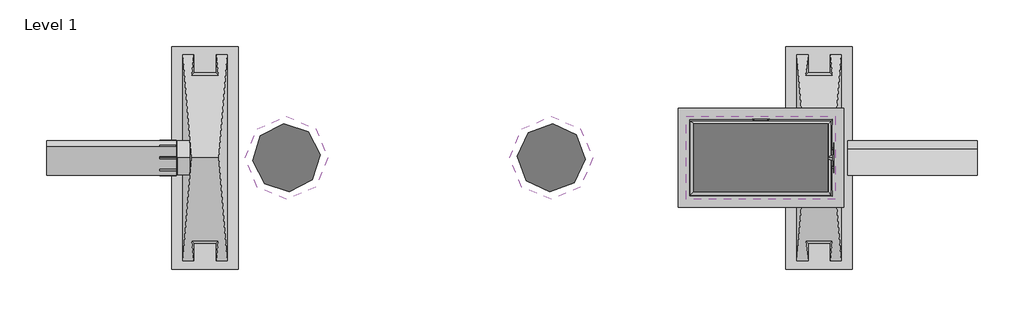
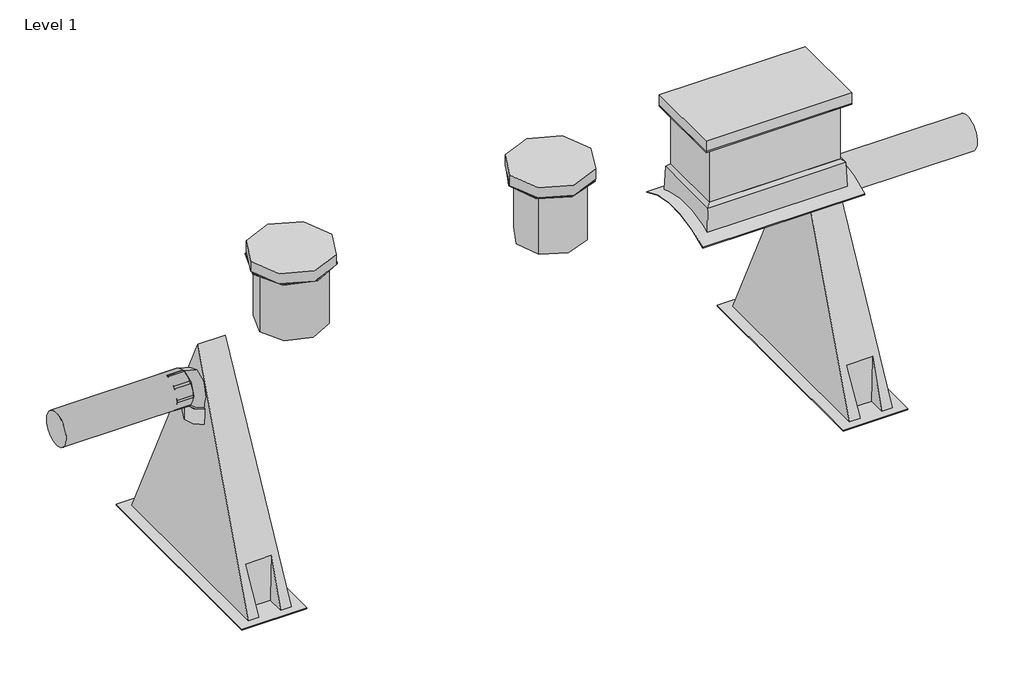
# One storey, incomplete: 12 proxies.
"""IFC4 building model written with IfcOpenShell, lengths in millimetres."""

from ifc_helpers import new_model, si_unit, origin, place, context, project, spatial, transform, mapped, element, save
from components import generic_models_de51d8ae, generic_models_57929f39, generic_models_2a316d6d, generic_models_37cd0800, generic_models_a9b11123, generic_models_b710c0a7, iso_4065_pipe_dn315x2_5xs63_1365_25acaa2f, inletpipeelbow_300d_10dc9381

model = new_model("IFC4")

# Units and contexts
model_context = context("Model", 3, world=origin())
ifc_project = project(units=[si_unit("LENGTHUNIT", "METRE", prefix="MILLI")], contexts=[model_context])

# Site, building, storey
site = spatial("IfcSite", under=ifc_project)
building = spatial("IfcBuilding", under=site)
storey = spatial("IfcBuildingStorey", under=building, Name="Level 1", Elevation=0.0)

# Proxies
placement = place(None, origin())
generic_models_shape = generic_models_de51d8ae(model_context)
element("IfcBuildingElementProxy", 1, Name="SU.600mmDia.ManwayRiser.600-10", ObjectType="SU.600mmDia.ManwayRiser.600-10", at=placement, inside=storey, context=model_context, shape_type="MappedRepresentation", body=[
    mapped(generic_models_shape, transform((-3909.9837873, 0.0, 754.9492089), x_axis=(0.9963198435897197, 0.0857132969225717, 0.0), y_axis=(0.0, 0.0, 1.0000000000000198), z_axis=(0.0857132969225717, -0.9963198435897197, 0.0))),
])
element("IfcBuildingElementProxy", 2, Name="SU.600mmDia.ManwayRiser.600-10", ObjectType="SU.600mmDia.ManwayRiser.600-10", at=placement, inside=storey, context=model_context, shape_type="MappedRepresentation", body=[
    mapped(generic_models_shape, transform((-1509.9645853, 0.0, 754.9492089), x_axis=(-0.7350844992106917, -0.6779755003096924, 0.0), y_axis=(0.0, 0.0, 0.9999999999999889), z_axis=(-0.6779755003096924, 0.7350844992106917, 0.0))),
])
generic_models_2_shape = generic_models_57929f39(model_context)
element("IfcBuildingElementProxy", 3, Name="SU.HS.FOOT.1850", ObjectType="SU.HS.FOOT.1850", at=placement, inside=storey, context=model_context, shape_type="MappedRepresentation", body=[
    mapped(generic_models_2_shape, transform((-4848.3956586, 0.0, -1304.0507911), x_axis=(0.0, 1.0, 0.0), y_axis=(0.0, 0.0, 1.0), z_axis=(1.0, 0.0, 0.0))),
])
element("IfcBuildingElementProxy", 4, Name="SU.HS.FOOT.1850", ObjectType="SU.HS.FOOT.1850", at=placement, inside=storey, context=model_context, shape_type="MappedRepresentation", body=[
    mapped(generic_models_2_shape, transform((718.395767, 0.0, -1304.0507911), x_axis=(0.0, 1.0, 0.0), y_axis=(0.0, 0.0, 1.0), z_axis=(1.0, 0.0, 0.0))),
])
generic_models_3_shape = generic_models_2a316d6d(model_context)
element("IfcBuildingElementProxy", 5, Name="600mmDia Manway Cover", ObjectType="600mmDia Manway Cover", at=placement, inside=storey, context=model_context, shape_type="MappedRepresentation", body=[
    mapped(generic_models_3_shape, transform((-1509.9645853, 0.0, 1354.9492089), x_axis=(1.0, 0.0, 0.0), y_axis=(0.0, 0.0, 1.0), z_axis=(0.0, -1.0, 0.0))),
])
element("IfcBuildingElementProxy", 6, Name="600mmDia Manway Cover", ObjectType="600mmDia Manway Cover", at=placement, inside=storey, context=model_context, shape_type="MappedRepresentation", body=[
    mapped(generic_models_3_shape, transform((-3909.9837873, 0.0, 1354.9492089), x_axis=(1.0, 0.0, 0.0), y_axis=(0.0, 0.0, 1.0), z_axis=(0.0, -1.0, 0.0))),
])
generic_models_4_shape = generic_models_37cd0800(model_context)
element("IfcBuildingElementProxy", 7, Name="600x 1200mm Manway Cover", ObjectType="600x 1200mm Manway Cover", at=placement, inside=storey, context=model_context, shape_type="MappedRepresentation", body=[
    mapped(generic_models_4_shape, transform((391.0000542, 0.0, 1354.9492089), x_axis=(0.0, 1.0, 0.0), y_axis=(0.0, 0.0, 1.0), z_axis=(1.0, 0.0, 0.0))),
])
generic_models_5_shape = generic_models_a9b11123(model_context)
element("IfcBuildingElementProxy", 8, Name="600x1200 Manway Riser", ObjectType="600x1200 Manway Riser", at=placement, inside=storey, context=model_context, shape_type="MappedRepresentation", body=[
    mapped(generic_models_5_shape, transform((391.0000542, 0.0, 1354.9492089), x_axis=(0.0, 1.0, 0.0), y_axis=(0.0, 0.0, 1.0), z_axis=(1.0, 0.0, 0.0))),
])
generic_models_6_shape = generic_models_b710c0a7(model_context)
element("IfcBuildingElementProxy", 9, Name="SU.MRADAPTOR.1850.600Lx1200W", ObjectType="SU.MRADAPTOR.1850.600Lx1200W", at=placement, inside=storey, context=model_context, shape_type="MappedRepresentation", body=[
    mapped(generic_models_6_shape, transform((391.0000542, 0.0, 587.9492089), x_axis=(0.0, -1.0, 0.0), y_axis=(0.0, 0.0, 1.0), z_axis=(-1.0, 0.0, 0.0))),
])
iso_4065_pipe_dn315x2_5xs63_1365_shape = iso_4065_pipe_dn315x2_5xs63_1365_25acaa2f(model_context)
element("IfcBuildingElementProxy", 10, Name="ISO 4065 Pipe DN315x2.5xS63 - 1365", ObjectType="ISO 4065 Pipe DN315x2.5xS63 - 1365", at=placement, inside=storey, context=model_context, shape_type="MappedRepresentation", body=[
    mapped(iso_4065_pipe_dn315x2_5xs63_1365_shape, transform((-4909.9999458, 0.0, 442.9492089), x_axis=(-1.0000000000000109, 0.0, 0.0), y_axis=(0.0, -0.643467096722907, -0.7654737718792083), z_axis=(0.0, -0.7654737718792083, 0.643467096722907))),
])
element("IfcBuildingElementProxy", 11, Name="ISO 4065 Pipe DN315x2.5xS63 - 1365", ObjectType="ISO 4065 Pipe DN315x2.5xS63 - 1365", at=placement, inside=storey, context=model_context, shape_type="MappedRepresentation", body=[
    mapped(iso_4065_pipe_dn315x2_5xs63_1365_shape, transform((1179.4286256, 0.0, 392.9492089), x_axis=(0.9999999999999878, 0.0, 0.0), y_axis=(0.0, 0.5027274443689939, 0.8644449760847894), z_axis=(0.0, -0.8644449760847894, 0.5027274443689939))),
])
inletpipeelbow_300d_shape = inletpipeelbow_300d_10dc9381(model_context)
element("IfcBuildingElementProxy", 12, Name="InletPipeElbow.300D", ObjectType="InletPipeElbow.300D", at=placement, inside=storey, context=model_context, shape_type="MappedRepresentation", body=[
    mapped(inletpipeelbow_300d_shape, transform((-4899.9999458, 0.0, 442.9492089), x_axis=(-1.0, 0.0, 0.0), y_axis=(0.0, 0.0, 1.0), z_axis=(0.0, 1.0, 0.0))),
])

save(model, "model.ifc")
